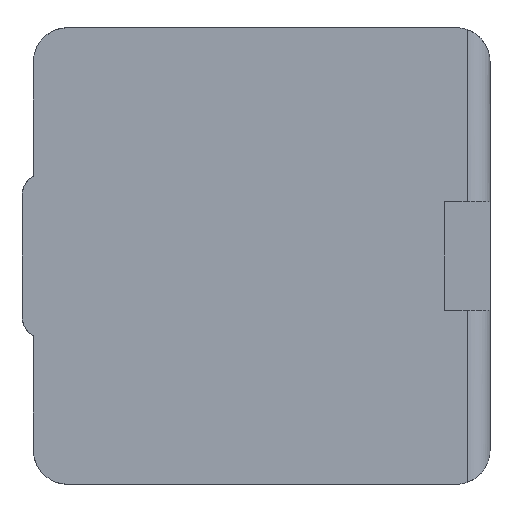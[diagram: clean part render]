
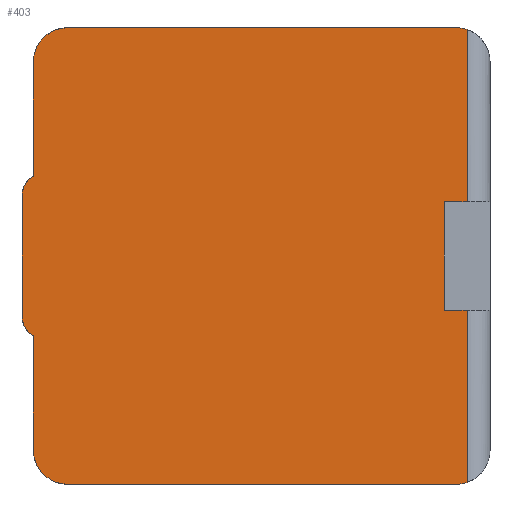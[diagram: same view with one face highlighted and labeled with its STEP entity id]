
A CAD part, front view. The second image highlights one B-rep face of the part: STEP entity #403.
In plain terms, the highlighted planar face has unit normal (0, -1, 0).
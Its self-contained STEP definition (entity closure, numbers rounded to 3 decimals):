
#39=FACE_OUTER_BOUND('',#61,.T.);
#61=EDGE_LOOP('',(#287,#288,#289,#290,#291,#292,#293,#294,#295,#296,#297,
#298,#299,#300,#301,#302));
#82=LINE('',#600,#120);
#83=LINE('',#603,#121);
#88=LINE('',#615,#126);
#90=LINE('',#619,#128);
#91=LINE('',#623,#129);
#92=LINE('',#627,#130);
#93=LINE('',#631,#131);
#94=LINE('',#635,#132);
#95=LINE('',#639,#133);
#96=LINE('',#642,#134);
#120=VECTOR('',#482,10.);
#121=VECTOR('',#485,10.);
#126=VECTOR('',#496,10.);
#128=VECTOR('',#500,10.);
#129=VECTOR('',#503,10.);
#130=VECTOR('',#506,10.);
#131=VECTOR('',#509,10.);
#132=VECTOR('',#512,10.);
#133=VECTOR('',#515,10.);
#134=VECTOR('',#518,10.);
#157=CIRCLE('',#442,1.5);
#158=CIRCLE('',#443,1.5);
#159=CIRCLE('',#444,1.);
#160=CIRCLE('',#445,1.);
#161=CIRCLE('',#446,1.5);
#162=CIRCLE('',#447,1.5);
#170=VERTEX_POINT('',#592);
#173=VERTEX_POINT('',#598);
#174=VERTEX_POINT('',#602);
#177=VERTEX_POINT('',#612);
#179=VERTEX_POINT('',#618);
#180=VERTEX_POINT('',#620);
#181=VERTEX_POINT('',#622);
#182=VERTEX_POINT('',#624);
#183=VERTEX_POINT('',#626);
#184=VERTEX_POINT('',#628);
#185=VERTEX_POINT('',#630);
#186=VERTEX_POINT('',#632);
#187=VERTEX_POINT('',#634);
#188=VERTEX_POINT('',#636);
#189=VERTEX_POINT('',#638);
#190=VERTEX_POINT('',#640);
#213=EDGE_CURVE('',#170,#173,#82,.T.);
#214=EDGE_CURVE('',#173,#174,#83,.T.);
#220=EDGE_CURVE('',#174,#177,#88,.T.);
#222=EDGE_CURVE('',#179,#177,#90,.T.);
#223=EDGE_CURVE('',#179,#180,#157,.T.);
#224=EDGE_CURVE('',#180,#181,#91,.T.);
#225=EDGE_CURVE('',#181,#182,#158,.T.);
#226=EDGE_CURVE('',#182,#183,#92,.T.);
#227=EDGE_CURVE('',#184,#183,#159,.T.);
#228=EDGE_CURVE('',#185,#184,#93,.T.);
#229=EDGE_CURVE('',#186,#185,#160,.T.);
#230=EDGE_CURVE('',#186,#187,#94,.T.);
#231=EDGE_CURVE('',#187,#188,#161,.T.);
#232=EDGE_CURVE('',#188,#189,#95,.T.);
#233=EDGE_CURVE('',#189,#190,#162,.T.);
#234=EDGE_CURVE('',#170,#190,#96,.T.);
#287=ORIENTED_EDGE('',*,*,#213,.T.);
#288=ORIENTED_EDGE('',*,*,#214,.T.);
#289=ORIENTED_EDGE('',*,*,#220,.T.);
#290=ORIENTED_EDGE('',*,*,#222,.F.);
#291=ORIENTED_EDGE('',*,*,#223,.T.);
#292=ORIENTED_EDGE('',*,*,#224,.T.);
#293=ORIENTED_EDGE('',*,*,#225,.T.);
#294=ORIENTED_EDGE('',*,*,#226,.T.);
#295=ORIENTED_EDGE('',*,*,#227,.F.);
#296=ORIENTED_EDGE('',*,*,#228,.F.);
#297=ORIENTED_EDGE('',*,*,#229,.F.);
#298=ORIENTED_EDGE('',*,*,#230,.T.);
#299=ORIENTED_EDGE('',*,*,#231,.T.);
#300=ORIENTED_EDGE('',*,*,#232,.T.);
#301=ORIENTED_EDGE('',*,*,#233,.T.);
#302=ORIENTED_EDGE('',*,*,#234,.F.);
#393=PLANE('',#441);
#403=ADVANCED_FACE('',(#39),#393,.F.);
#441=AXIS2_PLACEMENT_3D('',#617,#498,#499);
#442=AXIS2_PLACEMENT_3D('',#621,#501,#502);
#443=AXIS2_PLACEMENT_3D('',#625,#504,#505);
#444=AXIS2_PLACEMENT_3D('',#629,#507,#508);
#445=AXIS2_PLACEMENT_3D('',#633,#510,#511);
#446=AXIS2_PLACEMENT_3D('',#637,#513,#514);
#447=AXIS2_PLACEMENT_3D('',#641,#516,#517);
#482=DIRECTION('',(-1.,0.,0.));
#485=DIRECTION('',(0.,0.,1.));
#496=DIRECTION('',(1.,0.,0.));
#498=DIRECTION('center_axis',(0.,1.,0.));
#499=DIRECTION('ref_axis',(1.,0.,0.));
#500=DIRECTION('',(0.,0.,-1.));
#501=DIRECTION('center_axis',(0.,-1.,0.));
#502=DIRECTION('ref_axis',(1.,0.,0.));
#503=DIRECTION('',(-1.,0.,0.));
#504=DIRECTION('center_axis',(0.,-1.,0.));
#505=DIRECTION('ref_axis',(0.,0.,1.));
#506=DIRECTION('',(0.,0.,-1.));
#507=DIRECTION('center_axis',(0.,1.,0.));
#508=DIRECTION('ref_axis',(-0.5,0.,0.866));
#509=DIRECTION('',(0.,0.,1.));
#510=DIRECTION('center_axis',(0.,1.,0.));
#511=DIRECTION('ref_axis',(-0.5,0.,-0.866));
#512=DIRECTION('',(0.,0.,-1.));
#513=DIRECTION('center_axis',(0.,-1.,0.));
#514=DIRECTION('ref_axis',(-1.,0.,0.));
#515=DIRECTION('',(1.,0.,0.));
#516=DIRECTION('center_axis',(0.,-1.,0.));
#517=DIRECTION('ref_axis',(0.,0.,-1.));
#518=DIRECTION('',(0.,0.,-1.));
#592=CARTESIAN_POINT('',(-1.,0.,-12.379));
#598=CARTESIAN_POINT('',(-2.,0.,-12.379));
#600=CARTESIAN_POINT('',(-5.,0.,-12.379));
#602=CARTESIAN_POINT('',(-2.,0.,-7.621));
#603=CARTESIAN_POINT('',(-2.,0.,-10.));
#612=CARTESIAN_POINT('',(-1.,0.,-7.621));
#615=CARTESIAN_POINT('',(-5.,0.,-7.621));
#617=CARTESIAN_POINT('Origin',(-10.,0.,-10.));
#618=CARTESIAN_POINT('',(-1.,0.,-0.086));
#619=CARTESIAN_POINT('',(-1.,0.,-20.));
#620=CARTESIAN_POINT('',(-1.5,0.,0.));
#621=CARTESIAN_POINT('Origin',(-1.5,0.,-1.5));
#622=CARTESIAN_POINT('',(-18.5,0.,0.));
#623=CARTESIAN_POINT('',(0.,0.,0.));
#624=CARTESIAN_POINT('',(-20.,0.,-1.5));
#625=CARTESIAN_POINT('Origin',(-18.5,0.,-1.5));
#626=CARTESIAN_POINT('',(-20.,0.,-6.5));
#627=CARTESIAN_POINT('',(-20.,0.,0.));
#628=CARTESIAN_POINT('',(-20.5,0.,-7.366));
#629=CARTESIAN_POINT('Origin',(-19.5,0.,-7.366));
#630=CARTESIAN_POINT('',(-20.5,0.,-12.634));
#631=CARTESIAN_POINT('',(-20.5,0.,-6.5));
#632=CARTESIAN_POINT('',(-20.,0.,-13.5));
#633=CARTESIAN_POINT('Origin',(-19.5,0.,-12.634));
#634=CARTESIAN_POINT('',(-20.,0.,-18.5));
#635=CARTESIAN_POINT('',(-20.,0.,0.));
#636=CARTESIAN_POINT('',(-18.5,0.,-20.));
#637=CARTESIAN_POINT('Origin',(-18.5,0.,-18.5));
#638=CARTESIAN_POINT('',(-1.5,0.,-20.));
#639=CARTESIAN_POINT('',(-20.,0.,-20.));
#640=CARTESIAN_POINT('',(-1.,0.,-19.914));
#641=CARTESIAN_POINT('Origin',(-1.5,0.,-18.5));
#642=CARTESIAN_POINT('',(-1.,0.,-20.));
